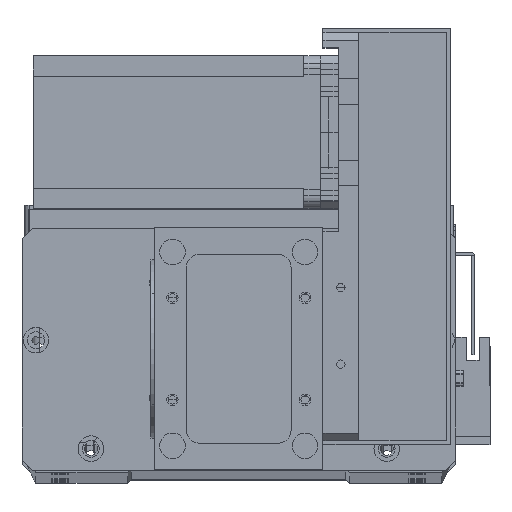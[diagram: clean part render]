
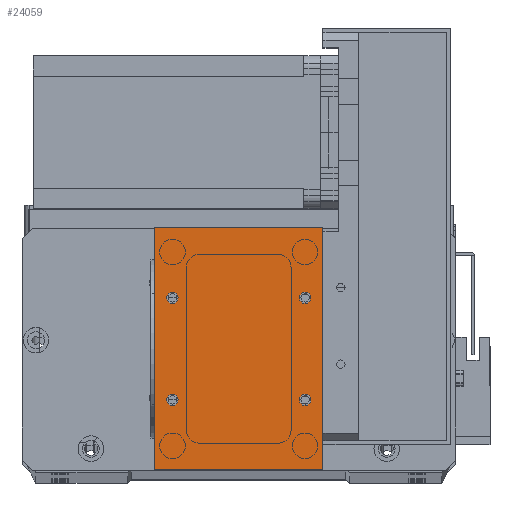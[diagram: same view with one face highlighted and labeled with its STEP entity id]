
A CAD part, top view. The second image highlights one B-rep face of the part: STEP entity #24059.
In plain terms, the highlighted planar face has unit normal (0, 0, 1).
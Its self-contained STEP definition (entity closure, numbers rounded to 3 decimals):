
#388 = VERTEX_POINT ( 'NONE', #3525 ) ;
#620 = ORIENTED_EDGE ( 'NONE', *, *, #19955, .F. ) ;
#742 = CARTESIAN_POINT ( 'NONE',  ( 56.75, 67.5, 2. ) ) ;
#913 = AXIS2_PLACEMENT_3D ( 'NONE', #13840, #31967, #16439 ) ;
#1062 = CARTESIAN_POINT ( 'NONE',  ( 9.25, 67.5, 2. ) ) ;
#1342 = VERTEX_POINT ( 'NONE', #29438 ) ;
#2374 = CIRCLE ( 'NONE', #23149, 2.25 ) ;
#2804 = CARTESIAN_POINT ( 'NONE',  ( 0., 0., 2. ) ) ;
#3504 = PLANE ( 'NONE',  #25938 ) ;
#3525 = CARTESIAN_POINT ( 'NONE',  ( 0., 95., 2. ) ) ;
#3619 = DIRECTION ( 'NONE',  ( 0., 0., -1. ) ) ;
#3636 = FACE_BOUND ( 'NONE', #16865, .T. ) ;
#4896 = EDGE_CURVE ( 'NONE', #388, #25155, #5757, .T. ) ;
#4903 = CARTESIAN_POINT ( 'NONE',  ( 59., 67.5, 2. ) ) ;
#5197 = CIRCLE ( 'NONE', #19307, 2.25 ) ;
#5204 = EDGE_CURVE ( 'NONE', #14593, #18463, #18287, .T. ) ;
#5757 = LINE ( 'NONE', #13683, #33306 ) ;
#6889 = CARTESIAN_POINT ( 'NONE',  ( 9.25, 27.5, 2. ) ) ;
#6988 = EDGE_CURVE ( 'NONE', #22289, #31484, #20610, .T. ) ;
#7063 = EDGE_CURVE ( 'NONE', #17554, #32083, #5197, .T. ) ;
#7439 = DIRECTION ( 'NONE',  ( 0., 0., 1. ) ) ;
#7455 = DIRECTION ( 'NONE',  ( 1., 0., 0. ) ) ;
#7664 = CARTESIAN_POINT ( 'NONE',  ( 7., 67.5, 2. ) ) ;
#7778 = CARTESIAN_POINT ( 'NONE',  ( 7., 27.5, 2. ) ) ;
#7965 = DIRECTION ( 'NONE',  ( 0., 0., 1. ) ) ;
#8238 = ORIENTED_EDGE ( 'NONE', *, *, #31002, .F. ) ;
#8354 = CARTESIAN_POINT ( 'NONE',  ( 4.75, 27.5, 2. ) ) ;
#8896 = AXIS2_PLACEMENT_3D ( 'NONE', #22974, #7439, #25574 ) ;
#9169 = EDGE_LOOP ( 'NONE', ( #13661, #10594 ) ) ;
#10016 = EDGE_LOOP ( 'NONE', ( #18664, #33505 ) ) ;
#10289 = DIRECTION ( 'NONE',  ( 1., 0., 0. ) ) ;
#10407 = DIRECTION ( 'NONE',  ( 1., 0., 0. ) ) ;
#10519 = FACE_BOUND ( 'NONE', #9169, .T. ) ;
#10594 = ORIENTED_EDGE ( 'NONE', *, *, #6988, .F. ) ;
#10674 = CARTESIAN_POINT ( 'NONE',  ( 0., 0., 2. ) ) ;
#10756 = CARTESIAN_POINT ( 'NONE',  ( 66., 95., 2. ) ) ;
#11119 = DIRECTION ( 'NONE',  ( 0., 0., 1. ) ) ;
#12001 = EDGE_CURVE ( 'NONE', #1342, #32696, #22080, .T. ) ;
#12136 = CIRCLE ( 'NONE', #33332, 2.25 ) ;
#12653 = CARTESIAN_POINT ( 'NONE',  ( 4.75, 67.5, 2. ) ) ;
#12873 = AXIS2_PLACEMENT_3D ( 'NONE', #23511, #7965, #26092 ) ;
#12977 = ORIENTED_EDGE ( 'NONE', *, *, #5204, .T. ) ;
#13384 = VECTOR ( 'NONE', #20915, 1000. ) ;
#13661 = ORIENTED_EDGE ( 'NONE', *, *, #33342, .F. ) ;
#13683 = CARTESIAN_POINT ( 'NONE',  ( 0., 0., 2. ) ) ;
#13840 = CARTESIAN_POINT ( 'NONE',  ( 59., 67.5, 2. ) ) ;
#13873 = DIRECTION ( 'NONE',  ( 0., 0., 1. ) ) ;
#14593 = VERTEX_POINT ( 'NONE', #20734 ) ;
#15260 = EDGE_LOOP ( 'NONE', ( #22609, #27350, #12977, #29560 ) ) ;
#16285 = AXIS2_PLACEMENT_3D ( 'NONE', #26613, #11119, #29237 ) ;
#16439 = DIRECTION ( 'NONE',  ( 1., 0., 0. ) ) ;
#16865 = EDGE_LOOP ( 'NONE', ( #8238, #620 ) ) ;
#17229 = CIRCLE ( 'NONE', #913, 2.25 ) ;
#17554 = VERTEX_POINT ( 'NONE', #1062 ) ;
#17772 = LINE ( 'NONE', #28520, #30741 ) ;
#18203 = FACE_BOUND ( 'NONE', #19314, .T. ) ;
#18287 = LINE ( 'NONE', #24570, #25188 ) ;
#18357 = EDGE_CURVE ( 'NONE', #18463, #388, #17772, .T. ) ;
#18463 = VERTEX_POINT ( 'NONE', #10756 ) ;
#18664 = ORIENTED_EDGE ( 'NONE', *, *, #7063, .F. ) ;
#19109 = CARTESIAN_POINT ( 'NONE',  ( 0., 0., 2. ) ) ;
#19307 = AXIS2_PLACEMENT_3D ( 'NONE', #7664, #25803, #10289 ) ;
#19314 = EDGE_LOOP ( 'NONE', ( #22487, #28001 ) ) ;
#19595 = VERTEX_POINT ( 'NONE', #23125 ) ;
#19955 = EDGE_CURVE ( 'NONE', #27725, #19595, #17229, .T. ) ;
#20610 = CIRCLE ( 'NONE', #8896, 2.25 ) ;
#20734 = CARTESIAN_POINT ( 'NONE',  ( 66., 0., 2. ) ) ;
#20915 = DIRECTION ( 'NONE',  ( 1., 0., 0. ) ) ;
#21119 = EDGE_CURVE ( 'NONE', #32696, #1342, #32165, .T. ) ;
#21715 = DIRECTION ( 'NONE',  ( -1., 0., 0. ) ) ;
#22080 = CIRCLE ( 'NONE', #16285, 2.25 ) ;
#22289 = VERTEX_POINT ( 'NONE', #8354 ) ;
#22487 = ORIENTED_EDGE ( 'NONE', *, *, #12001, .F. ) ;
#22609 = ORIENTED_EDGE ( 'NONE', *, *, #4896, .T. ) ;
#22974 = CARTESIAN_POINT ( 'NONE',  ( 7., 27.5, 2. ) ) ;
#22992 = DIRECTION ( 'NONE',  ( 0., 0., 1. ) ) ;
#23125 = CARTESIAN_POINT ( 'NONE',  ( 61.25, 67.5, 2. ) ) ;
#23149 = AXIS2_PLACEMENT_3D ( 'NONE', #7778, #25911, #10407 ) ;
#23511 = CARTESIAN_POINT ( 'NONE',  ( 59., 27.5, 2. ) ) ;
#24059 = ADVANCED_FACE ( 'NONE', ( #24298, #3636, #18203, #10519, #30363 ), #3504, .F. ) ;
#24298 = FACE_BOUND ( 'NONE', #10016, .T. ) ;
#24570 = CARTESIAN_POINT ( 'NONE',  ( 66., 0., 2. ) ) ;
#24657 = EDGE_CURVE ( 'NONE', #32083, #17554, #12136, .T. ) ;
#25155 = VERTEX_POINT ( 'NONE', #10674 ) ;
#25188 = VECTOR ( 'NONE', #29773, 1000. ) ;
#25574 = DIRECTION ( 'NONE',  ( 1., 0., 0. ) ) ;
#25803 = DIRECTION ( 'NONE',  ( 0., 0., 1. ) ) ;
#25911 = DIRECTION ( 'NONE',  ( 0., 0., 1. ) ) ;
#25938 = AXIS2_PLACEMENT_3D ( 'NONE', #19109, #3619, #21715 ) ;
#26092 = DIRECTION ( 'NONE',  ( 1., 0., 0. ) ) ;
#26326 = LINE ( 'NONE', #2804, #13384 ) ;
#26613 = CARTESIAN_POINT ( 'NONE',  ( 59., 27.5, 2. ) ) ;
#27350 = ORIENTED_EDGE ( 'NONE', *, *, #32192, .T. ) ;
#27725 = VERTEX_POINT ( 'NONE', #742 ) ;
#27990 = CIRCLE ( 'NONE', #31990, 2.25 ) ;
#28001 = ORIENTED_EDGE ( 'NONE', *, *, #21119, .F. ) ;
#28520 = CARTESIAN_POINT ( 'NONE',  ( 0., 95., 2. ) ) ;
#28550 = CARTESIAN_POINT ( 'NONE',  ( 56.75, 27.5, 2. ) ) ;
#28764 = DIRECTION ( 'NONE',  ( 0., -1., 0. ) ) ;
#29237 = DIRECTION ( 'NONE',  ( 1., 0., 0. ) ) ;
#29370 = CARTESIAN_POINT ( 'NONE',  ( 7., 67.5, 2. ) ) ;
#29438 = CARTESIAN_POINT ( 'NONE',  ( 61.25, 27.5, 2. ) ) ;
#29560 = ORIENTED_EDGE ( 'NONE', *, *, #18357, .T. ) ;
#29773 = DIRECTION ( 'NONE',  ( 0., 1., 0. ) ) ;
#30363 = FACE_OUTER_BOUND ( 'NONE', #15260, .T. ) ;
#30741 = VECTOR ( 'NONE', #31154, 1000. ) ;
#31002 = EDGE_CURVE ( 'NONE', #19595, #27725, #27990, .T. ) ;
#31154 = DIRECTION ( 'NONE',  ( -1., 0., 0. ) ) ;
#31484 = VERTEX_POINT ( 'NONE', #6889 ) ;
#31967 = DIRECTION ( 'NONE',  ( 0., 0., 1. ) ) ;
#31990 = AXIS2_PLACEMENT_3D ( 'NONE', #4903, #22992, #7455 ) ;
#31999 = DIRECTION ( 'NONE',  ( 1., 0., 0. ) ) ;
#32083 = VERTEX_POINT ( 'NONE', #12653 ) ;
#32165 = CIRCLE ( 'NONE', #12873, 2.25 ) ;
#32192 = EDGE_CURVE ( 'NONE', #25155, #14593, #26326, .T. ) ;
#32696 = VERTEX_POINT ( 'NONE', #28550 ) ;
#33306 = VECTOR ( 'NONE', #28764, 1000. ) ;
#33332 = AXIS2_PLACEMENT_3D ( 'NONE', #29370, #13873, #31999 ) ;
#33342 = EDGE_CURVE ( 'NONE', #31484, #22289, #2374, .T. ) ;
#33505 = ORIENTED_EDGE ( 'NONE', *, *, #24657, .F. ) ;
